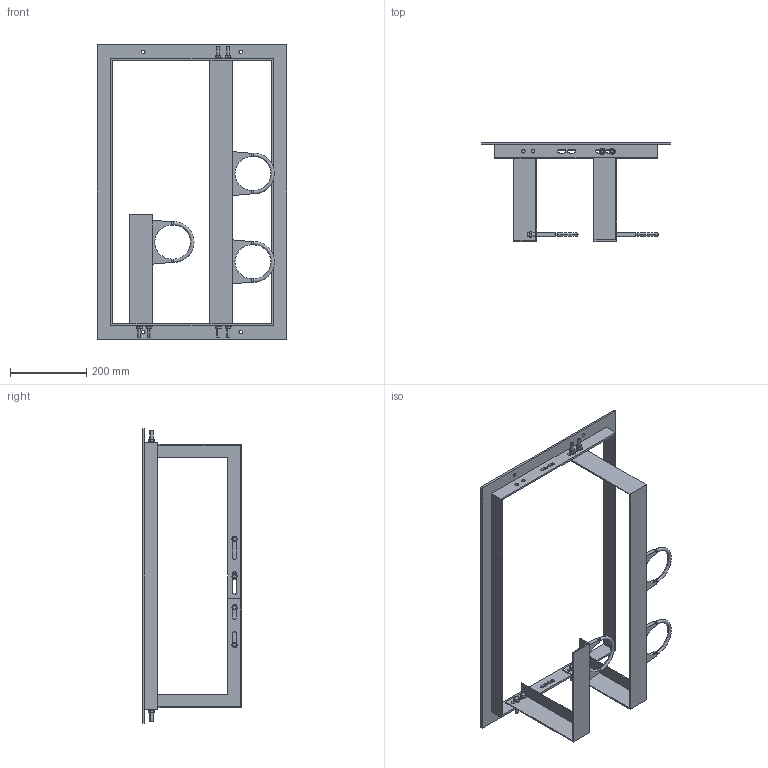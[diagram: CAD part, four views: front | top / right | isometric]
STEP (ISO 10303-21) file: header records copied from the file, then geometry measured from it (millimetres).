
FILE_DESCRIPTION (( 'STEP AP214' ), '1' );
FILE_NAME ('KP_DCF800S.STEP', '2013-01-14T11:01:03', ( '' ), ( '' ), 'SwSTEP 2.0', 'SolidWorks 2012', '' );
FILE_SCHEMA (( 'AUTOMOTIVE_DESIGN' ));
Length unit declared in the file: millimetre
Products named in the file (1): KP_DCF800S
Bounding box: 495 x 258 x 770 mm (x, y, z)
Volume: 1447284.9 mm3; surface area: 730920.9 mm2
Topology: 4 solids, 4 shells, 658 faces, 1605 edges, 993 vertices
Faces by surface type: plane 341, cylinder 190, cone 121, torus 6
Entity records: 22613 total; most frequent: CARTESIAN_POINT 4690, DIRECTION 3295, ORIENTED_EDGE 3210, EDGE_CURVE 1605, AXIS2_PLACEMENT_3D 1264, VERTEX_POINT 993, VECTOR 767, LINE 767
